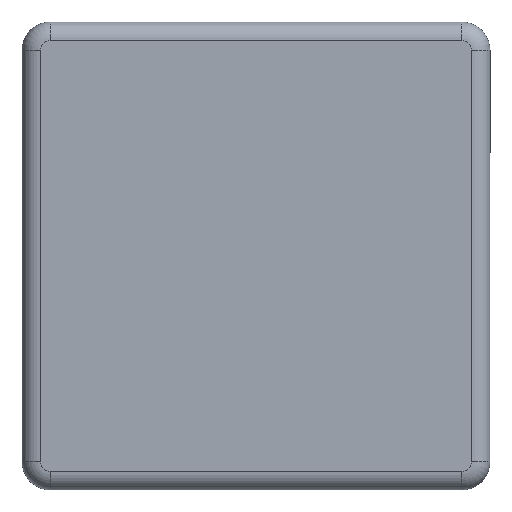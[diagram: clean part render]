
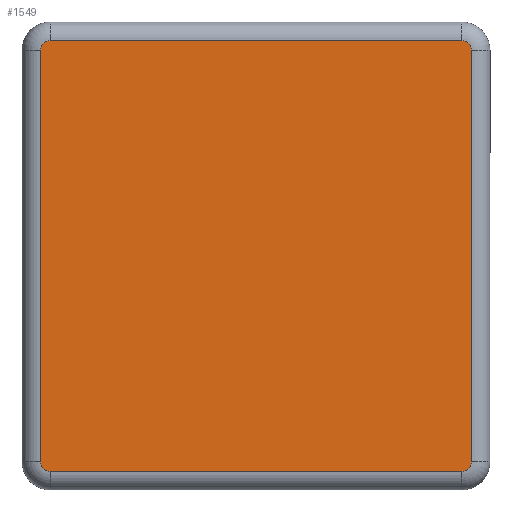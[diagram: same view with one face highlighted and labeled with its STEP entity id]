
A CAD part, front view. The second image highlights one B-rep face of the part: STEP entity #1549.
In plain terms, the highlighted planar face has unit normal (0, -1, 0).
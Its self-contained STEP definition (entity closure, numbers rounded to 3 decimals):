
#10 = ORIENTED_EDGE ( 'NONE', *, *, #531, .T. ) ;
#42 = EDGE_CURVE ( 'NONE', #1282, #807, #1410, .T. ) ;
#54 = CARTESIAN_POINT ( 'NONE',  ( 18.448, 0., -19.188 ) ) ;
#103 = DIRECTION ( 'NONE',  ( 0., -1., 0. ) ) ;
#134 = CARTESIAN_POINT ( 'NONE',  ( -26.552, 0., 0. ) ) ;
#176 = EDGE_CURVE ( 'NONE', #537, #243, #553, .T. ) ;
#177 = DIRECTION ( 'NONE',  ( 0., 0., 1. ) ) ;
#229 = AXIS2_PLACEMENT_3D ( 'NONE', #1414, #672, #1541 ) ;
#238 = PLANE ( 'NONE',  #771 ) ;
#241 = CARTESIAN_POINT ( 'NONE',  ( 19.448, 0., 0. ) ) ;
#243 = VERTEX_POINT ( 'NONE', #549 ) ;
#249 = AXIS2_PLACEMENT_3D ( 'NONE', #54, #922, #177 ) ;
#264 = CIRCLE ( 'NONE', #459, 1. ) ;
#319 = VERTEX_POINT ( 'NONE', #464 ) ;
#336 = VERTEX_POINT ( 'NONE', #1095 ) ;
#339 = CARTESIAN_POINT ( 'NONE',  ( -25.552, 0., 24.812 ) ) ;
#370 = DIRECTION ( 'NONE',  ( 0., 1., 0. ) ) ;
#418 = VECTOR ( 'NONE', #1010, 1000. ) ;
#420 = CARTESIAN_POINT ( 'NONE',  ( -26.552, 0., 24.812 ) ) ;
#450 = DIRECTION ( 'NONE',  ( 0., 0., 1. ) ) ;
#459 = AXIS2_PLACEMENT_3D ( 'NONE', #840, #103, #974 ) ;
#464 = CARTESIAN_POINT ( 'NONE',  ( -25.552, 0., -20.188 ) ) ;
#494 = ORIENTED_EDGE ( 'NONE', *, *, #1267, .T. ) ;
#507 = VECTOR ( 'NONE', #1322, 1000. ) ;
#513 = VECTOR ( 'NONE', #1110, 1000. ) ;
#531 = EDGE_CURVE ( 'NONE', #807, #319, #264, .T. ) ;
#537 = VERTEX_POINT ( 'NONE', #965 ) ;
#549 = CARTESIAN_POINT ( 'NONE',  ( 19.448, 0., -19.188 ) ) ;
#553 = CIRCLE ( 'NONE', #249, 1. ) ;
#569 = EDGE_CURVE ( 'NONE', #1141, #336, #1225, .T. ) ;
#604 = VECTOR ( 'NONE', #1441, 1000. ) ;
#605 = CARTESIAN_POINT ( 'NONE',  ( 19.448, 0., 24.812 ) ) ;
#629 = ORIENTED_EDGE ( 'NONE', *, *, #1149, .T. ) ;
#672 = DIRECTION ( 'NONE',  ( 0., -1., 0. ) ) ;
#711 = VERTEX_POINT ( 'NONE', #605 ) ;
#727 = CARTESIAN_POINT ( 'NONE',  ( 0., 0., 0. ) ) ;
#758 = EDGE_CURVE ( 'NONE', #243, #711, #1186, .T. ) ;
#759 = ORIENTED_EDGE ( 'NONE', *, *, #569, .T. ) ;
#771 = AXIS2_PLACEMENT_3D ( 'NONE', #727, #370, #1238 ) ;
#807 = VERTEX_POINT ( 'NONE', #870 ) ;
#822 = CARTESIAN_POINT ( 'NONE',  ( 18.448, 0., 25.812 ) ) ;
#840 = CARTESIAN_POINT ( 'NONE',  ( -25.552, 0., -19.188 ) ) ;
#844 = AXIS2_PLACEMENT_3D ( 'NONE', #339, #1205, #450 ) ;
#870 = CARTESIAN_POINT ( 'NONE',  ( -26.552, 0., -19.188 ) ) ;
#922 = DIRECTION ( 'NONE',  ( 0., -1., 0. ) ) ;
#965 = CARTESIAN_POINT ( 'NONE',  ( 18.448, 0., -20.188 ) ) ;
#974 = DIRECTION ( 'NONE',  ( 0., 0., 1. ) ) ;
#984 = LINE ( 'NONE', #1191, #604 ) ;
#1001 = CIRCLE ( 'NONE', #229, 1. ) ;
#1010 = DIRECTION ( 'NONE',  ( 0., 0., -1. ) ) ;
#1095 = CARTESIAN_POINT ( 'NONE',  ( -25.552, 0., 25.812 ) ) ;
#1110 = DIRECTION ( 'NONE',  ( 0., 0., 1. ) ) ;
#1125 = EDGE_CURVE ( 'NONE', #319, #537, #984, .T. ) ;
#1132 = ORIENTED_EDGE ( 'NONE', *, *, #42, .T. ) ;
#1141 = VERTEX_POINT ( 'NONE', #822 ) ;
#1149 = EDGE_CURVE ( 'NONE', #336, #1282, #1268, .T. ) ;
#1186 = LINE ( 'NONE', #241, #513 ) ;
#1191 = CARTESIAN_POINT ( 'NONE',  ( 0., 0., -20.188 ) ) ;
#1194 = ORIENTED_EDGE ( 'NONE', *, *, #1125, .T. ) ;
#1205 = DIRECTION ( 'NONE',  ( 0., -1., 0. ) ) ;
#1225 = LINE ( 'NONE', #1486, #507 ) ;
#1238 = DIRECTION ( 'NONE',  ( 0., 0., 1. ) ) ;
#1267 = EDGE_CURVE ( 'NONE', #711, #1141, #1001, .T. ) ;
#1268 = CIRCLE ( 'NONE', #844, 1. ) ;
#1275 = FACE_OUTER_BOUND ( 'NONE', #1521, .T. ) ;
#1282 = VERTEX_POINT ( 'NONE', #420 ) ;
#1300 = ORIENTED_EDGE ( 'NONE', *, *, #176, .T. ) ;
#1311 = ORIENTED_EDGE ( 'NONE', *, *, #758, .T. ) ;
#1322 = DIRECTION ( 'NONE',  ( -1., 0., 0. ) ) ;
#1410 = LINE ( 'NONE', #134, #418 ) ;
#1414 = CARTESIAN_POINT ( 'NONE',  ( 18.448, 0., 24.812 ) ) ;
#1441 = DIRECTION ( 'NONE',  ( 1., 0., 0. ) ) ;
#1486 = CARTESIAN_POINT ( 'NONE',  ( 0., 0., 25.812 ) ) ;
#1521 = EDGE_LOOP ( 'NONE', ( #759, #629, #1132, #10, #1194, #1300, #1311, #494 ) ) ;
#1541 = DIRECTION ( 'NONE',  ( 0., 0., 1. ) ) ;
#1549 = ADVANCED_FACE ( 'NONE', ( #1275 ), #238, .F. ) ;
